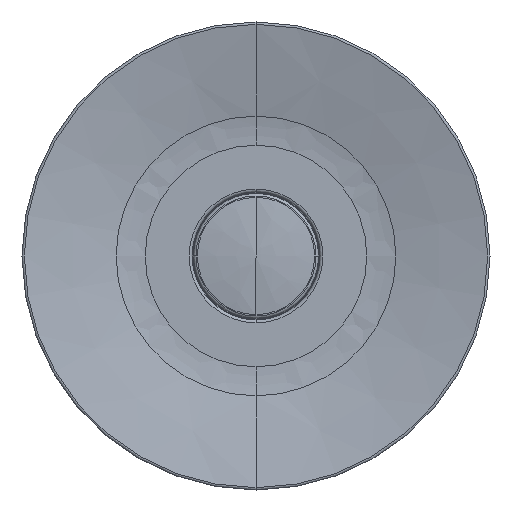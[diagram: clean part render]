
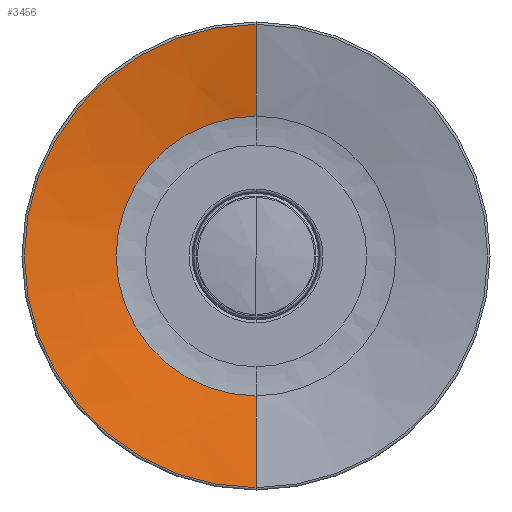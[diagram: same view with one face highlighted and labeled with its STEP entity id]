
A CAD part, front view. The second image highlights one B-rep face of the part: STEP entity #3456.
In plain terms, the highlighted conical face has half-angle 77.84 degrees and reference radius 326 mm.
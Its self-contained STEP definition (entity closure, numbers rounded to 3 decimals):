
#53 = CARTESIAN_POINT ( 'NONE',  ( -107.991, -9.552, 31.198 ) ) ;
#206 = DIRECTION ( 'NONE',  ( 0., -1., 0. ) ) ;
#321 = VERTEX_POINT ( 'NONE', #694 ) ;
#414 = DIRECTION ( 'NONE',  ( 0., 0., -1. ) ) ;
#543 = ORIENTED_EDGE ( 'NONE', *, *, #2716, .T. ) ;
#688 = CARTESIAN_POINT ( 'NONE',  ( -107.991, -31.798, 31.198 ) ) ;
#694 = CARTESIAN_POINT ( 'NONE',  ( -107.991, -9.552, 253.958 ) ) ;
#725 = AXIS2_PLACEMENT_3D ( 'NONE', #688, #206, #414 ) ;
#742 = VECTOR ( 'NONE', #2639, 1000. ) ;
#837 = VECTOR ( 'NONE', #2755, 1000. ) ;
#865 = EDGE_CURVE ( 'NONE', #2040, #2701, #3151, .T. ) ;
#924 = AXIS2_PLACEMENT_3D ( 'NONE', #2077, #1008, #2127 ) ;
#1008 = DIRECTION ( 'NONE',  ( 0., 1., 0. ) ) ;
#1027 = EDGE_LOOP ( 'NONE', ( #543, #2378, #2565, #1407 ) ) ;
#1157 = DIRECTION ( 'NONE',  ( 0., -1., 0. ) ) ;
#1407 = ORIENTED_EDGE ( 'NONE', *, *, #865, .F. ) ;
#1836 = CARTESIAN_POINT ( 'NONE',  ( -107.991, -31.798, -294.802 ) ) ;
#1909 = AXIS2_PLACEMENT_3D ( 'NONE', #53, #1157, #3051 ) ;
#2040 = VERTEX_POINT ( 'NONE', #2615 ) ;
#2072 = CARTESIAN_POINT ( 'NONE',  ( -107.991, 9.478, 165.646 ) ) ;
#2077 = CARTESIAN_POINT ( 'NONE',  ( -107.991, 9.478, 31.198 ) ) ;
#2127 = DIRECTION ( 'NONE',  ( 0., 0., -1. ) ) ;
#2132 = LINE ( 'NONE', #3204, #837 ) ;
#2352 = EDGE_CURVE ( 'NONE', #3463, #321, #2132, .T. ) ;
#2378 = ORIENTED_EDGE ( 'NONE', *, *, #2352, .T. ) ;
#2407 = CIRCLE ( 'NONE', #924, 134.448 ) ;
#2565 = ORIENTED_EDGE ( 'NONE', *, *, #2968, .T. ) ;
#2615 = CARTESIAN_POINT ( 'NONE',  ( -107.991, 9.478, -103.25 ) ) ;
#2639 = DIRECTION ( 'NONE',  ( 0., -0.211, -0.978 ) ) ;
#2701 = VERTEX_POINT ( 'NONE', #3212 ) ;
#2716 = EDGE_CURVE ( 'NONE', #2040, #3463, #2407, .T. ) ;
#2755 = DIRECTION ( 'NONE',  ( 0., -0.211, 0.978 ) ) ;
#2890 = FACE_OUTER_BOUND ( 'NONE', #1027, .T. ) ;
#2968 = EDGE_CURVE ( 'NONE', #321, #2701, #3440, .T. ) ;
#3051 = DIRECTION ( 'NONE',  ( 0., 0., 1. ) ) ;
#3151 = LINE ( 'NONE', #1836, #742 ) ;
#3204 = CARTESIAN_POINT ( 'NONE',  ( -107.991, -31.798, 357.198 ) ) ;
#3212 = CARTESIAN_POINT ( 'NONE',  ( -107.991, -9.552, -191.562 ) ) ;
#3405 = CONICAL_SURFACE ( 'NONE', #725, 326., 1.359 ) ;
#3440 = CIRCLE ( 'NONE', #1909, 222.76 ) ;
#3456 = ADVANCED_FACE ( 'NONE', ( #2890 ), #3405, .F. ) ;
#3463 = VERTEX_POINT ( 'NONE', #2072 ) ;
